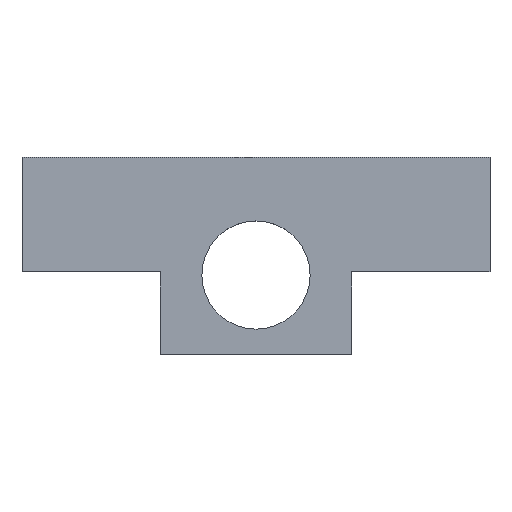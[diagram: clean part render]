
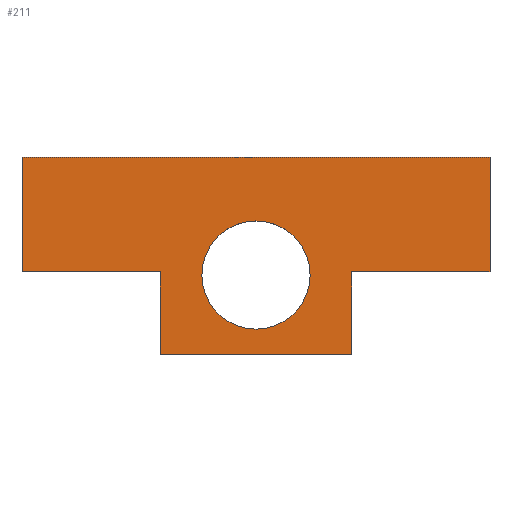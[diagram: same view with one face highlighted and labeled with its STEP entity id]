
A CAD part, top view. The second image highlights one B-rep face of the part: STEP entity #211.
In plain terms, the highlighted planar face has unit normal (0, 0, 1).
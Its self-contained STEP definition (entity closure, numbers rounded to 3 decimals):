
#24 = VERTEX_POINT('',#25);
#25 = CARTESIAN_POINT('',(-30.35,-45.2,15.3));
#32 = PLANE('',#33);
#33 = AXIS2_PLACEMENT_3D('',#34,#35,#36);
#34 = CARTESIAN_POINT('',(-30.35,-45.2,13.3));
#35 = DIRECTION('',(1.,0.,0.));
#36 = DIRECTION('',(0.,0.,1.));
#44 = PLANE('',#45);
#45 = AXIS2_PLACEMENT_3D('',#46,#47,#48);
#46 = CARTESIAN_POINT('',(-30.35,-45.2,13.3));
#47 = DIRECTION('',(0.,1.,0.));
#48 = DIRECTION('',(0.,0.,1.));
#85 = VERTEX_POINT('',#86);
#86 = CARTESIAN_POINT('',(-30.35,-41.6,15.3));
#100 = PLANE('',#101);
#101 = AXIS2_PLACEMENT_3D('',#102,#103,#104);
#102 = CARTESIAN_POINT('',(-30.35,-41.6,13.3));
#103 = DIRECTION('',(0.,1.,0.));
#104 = DIRECTION('',(0.,0.,1.));
#112 = EDGE_CURVE('',#24,#85,#113,.T.);
#113 = SURFACE_CURVE('',#114,(#118,#125),.PCURVE_S1.);
#114 = LINE('',#115,#116);
#115 = CARTESIAN_POINT('',(-30.35,-45.2,15.3));
#116 = VECTOR('',#117,1.);
#117 = DIRECTION('',(0.,1.,0.));
#118 = PCURVE('',#32,#119);
#119 = DEFINITIONAL_REPRESENTATION('',(#120),#124);
#120 = LINE('',#121,#122);
#121 = CARTESIAN_POINT('',(2.,0.));
#122 = VECTOR('',#123,1.);
#123 = DIRECTION('',(0.,-1.));
#124 = ( GEOMETRIC_REPRESENTATION_CONTEXT(2) 
PARAMETRIC_REPRESENTATION_CONTEXT() REPRESENTATION_CONTEXT('2D SPACE',''
  ) );
#125 = PCURVE('',#126,#131);
#126 = PLANE('',#127);
#127 = AXIS2_PLACEMENT_3D('',#128,#129,#130);
#128 = CARTESIAN_POINT('',(-30.35,-45.2,15.3));
#129 = DIRECTION('',(0.,0.,1.));
#130 = DIRECTION('',(1.,0.,0.));
#131 = DEFINITIONAL_REPRESENTATION('',(#132),#136);
#132 = LINE('',#133,#134);
#133 = CARTESIAN_POINT('',(0.,0.));
#134 = VECTOR('',#135,1.);
#135 = DIRECTION('',(0.,1.));
#136 = ( GEOMETRIC_REPRESENTATION_CONTEXT(2) 
PARAMETRIC_REPRESENTATION_CONTEXT() REPRESENTATION_CONTEXT('2D SPACE',''
  ) );
#165 = EDGE_CURVE('',#24,#166,#168,.T.);
#166 = VERTEX_POINT('',#167);
#167 = CARTESIAN_POINT('',(-26.,-45.2,15.3));
#168 = SURFACE_CURVE('',#169,(#173,#180),.PCURVE_S1.);
#169 = LINE('',#170,#171);
#170 = CARTESIAN_POINT('',(-30.35,-45.2,15.3));
#171 = VECTOR('',#172,1.);
#172 = DIRECTION('',(1.,0.,0.));
#173 = PCURVE('',#44,#174);
#174 = DEFINITIONAL_REPRESENTATION('',(#175),#179);
#175 = LINE('',#176,#177);
#176 = CARTESIAN_POINT('',(2.,0.));
#177 = VECTOR('',#178,1.);
#178 = DIRECTION('',(0.,1.));
#179 = ( GEOMETRIC_REPRESENTATION_CONTEXT(2) 
PARAMETRIC_REPRESENTATION_CONTEXT() REPRESENTATION_CONTEXT('2D SPACE',''
  ) );
#180 = PCURVE('',#126,#181);
#181 = DEFINITIONAL_REPRESENTATION('',(#182),#186);
#182 = LINE('',#183,#184);
#183 = CARTESIAN_POINT('',(0.,0.));
#184 = VECTOR('',#185,1.);
#185 = DIRECTION('',(1.,0.));
#186 = ( GEOMETRIC_REPRESENTATION_CONTEXT(2) 
PARAMETRIC_REPRESENTATION_CONTEXT() REPRESENTATION_CONTEXT('2D SPACE',''
  ) );
#201 = PLANE('',#202);
#202 = AXIS2_PLACEMENT_3D('',#203,#204,#205);
#203 = CARTESIAN_POINT('',(-26.,-47.8,13.3));
#204 = DIRECTION('',(1.,0.,0.));
#205 = DIRECTION('',(0.,0.,1.));
#211 = ADVANCED_FACE('',(#212,#372),#126,.T.);
#212 = FACE_BOUND('',#213,.T.);
#213 = EDGE_LOOP('',(#214,#237,#238,#239,#262,#290,#318,#346));
#214 = ORIENTED_EDGE('',*,*,#215,.F.);
#215 = EDGE_CURVE('',#85,#216,#218,.T.);
#216 = VERTEX_POINT('',#217);
#217 = CARTESIAN_POINT('',(-15.65,-41.6,15.3));
#218 = SURFACE_CURVE('',#219,(#223,#230),.PCURVE_S1.);
#219 = LINE('',#220,#221);
#220 = CARTESIAN_POINT('',(-30.35,-41.6,15.3));
#221 = VECTOR('',#222,1.);
#222 = DIRECTION('',(1.,0.,0.));
#223 = PCURVE('',#126,#224);
#224 = DEFINITIONAL_REPRESENTATION('',(#225),#229);
#225 = LINE('',#226,#227);
#226 = CARTESIAN_POINT('',(0.,3.6));
#227 = VECTOR('',#228,1.);
#228 = DIRECTION('',(1.,0.));
#229 = ( GEOMETRIC_REPRESENTATION_CONTEXT(2) 
PARAMETRIC_REPRESENTATION_CONTEXT() REPRESENTATION_CONTEXT('2D SPACE',''
  ) );
#230 = PCURVE('',#100,#231);
#231 = DEFINITIONAL_REPRESENTATION('',(#232),#236);
#232 = LINE('',#233,#234);
#233 = CARTESIAN_POINT('',(2.,0.));
#234 = VECTOR('',#235,1.);
#235 = DIRECTION('',(0.,1.));
#236 = ( GEOMETRIC_REPRESENTATION_CONTEXT(2) 
PARAMETRIC_REPRESENTATION_CONTEXT() REPRESENTATION_CONTEXT('2D SPACE',''
  ) );
#237 = ORIENTED_EDGE('',*,*,#112,.F.);
#238 = ORIENTED_EDGE('',*,*,#165,.T.);
#239 = ORIENTED_EDGE('',*,*,#240,.F.);
#240 = EDGE_CURVE('',#241,#166,#243,.T.);
#241 = VERTEX_POINT('',#242);
#242 = CARTESIAN_POINT('',(-26.,-47.8,15.3));
#243 = SURFACE_CURVE('',#244,(#248,#255),.PCURVE_S1.);
#244 = LINE('',#245,#246);
#245 = CARTESIAN_POINT('',(-26.,-47.8,15.3));
#246 = VECTOR('',#247,1.);
#247 = DIRECTION('',(0.,1.,0.));
#248 = PCURVE('',#126,#249);
#249 = DEFINITIONAL_REPRESENTATION('',(#250),#254);
#250 = LINE('',#251,#252);
#251 = CARTESIAN_POINT('',(4.35,-2.6));
#252 = VECTOR('',#253,1.);
#253 = DIRECTION('',(0.,1.));
#254 = ( GEOMETRIC_REPRESENTATION_CONTEXT(2) 
PARAMETRIC_REPRESENTATION_CONTEXT() REPRESENTATION_CONTEXT('2D SPACE',''
  ) );
#255 = PCURVE('',#201,#256);
#256 = DEFINITIONAL_REPRESENTATION('',(#257),#261);
#257 = LINE('',#258,#259);
#258 = CARTESIAN_POINT('',(2.,0.));
#259 = VECTOR('',#260,1.);
#260 = DIRECTION('',(0.,-1.));
#261 = ( GEOMETRIC_REPRESENTATION_CONTEXT(2) 
PARAMETRIC_REPRESENTATION_CONTEXT() REPRESENTATION_CONTEXT('2D SPACE',''
  ) );
#262 = ORIENTED_EDGE('',*,*,#263,.T.);
#263 = EDGE_CURVE('',#241,#264,#266,.T.);
#264 = VERTEX_POINT('',#265);
#265 = CARTESIAN_POINT('',(-20.,-47.8,15.3));
#266 = SURFACE_CURVE('',#267,(#271,#278),.PCURVE_S1.);
#267 = LINE('',#268,#269);
#268 = CARTESIAN_POINT('',(-26.,-47.8,15.3));
#269 = VECTOR('',#270,1.);
#270 = DIRECTION('',(1.,0.,0.));
#271 = PCURVE('',#126,#272);
#272 = DEFINITIONAL_REPRESENTATION('',(#273),#277);
#273 = LINE('',#274,#275);
#274 = CARTESIAN_POINT('',(4.35,-2.6));
#275 = VECTOR('',#276,1.);
#276 = DIRECTION('',(1.,0.));
#277 = ( GEOMETRIC_REPRESENTATION_CONTEXT(2) 
PARAMETRIC_REPRESENTATION_CONTEXT() REPRESENTATION_CONTEXT('2D SPACE',''
  ) );
#278 = PCURVE('',#279,#284);
#279 = PLANE('',#280);
#280 = AXIS2_PLACEMENT_3D('',#281,#282,#283);
#281 = CARTESIAN_POINT('',(-26.,-47.8,13.3));
#282 = DIRECTION('',(0.,1.,0.));
#283 = DIRECTION('',(0.,0.,1.));
#284 = DEFINITIONAL_REPRESENTATION('',(#285),#289);
#285 = LINE('',#286,#287);
#286 = CARTESIAN_POINT('',(2.,0.));
#287 = VECTOR('',#288,1.);
#288 = DIRECTION('',(0.,1.));
#289 = ( GEOMETRIC_REPRESENTATION_CONTEXT(2) 
PARAMETRIC_REPRESENTATION_CONTEXT() REPRESENTATION_CONTEXT('2D SPACE',''
  ) );
#290 = ORIENTED_EDGE('',*,*,#291,.T.);
#291 = EDGE_CURVE('',#264,#292,#294,.T.);
#292 = VERTEX_POINT('',#293);
#293 = CARTESIAN_POINT('',(-20.,-45.2,15.3));
#294 = SURFACE_CURVE('',#295,(#299,#306),.PCURVE_S1.);
#295 = LINE('',#296,#297);
#296 = CARTESIAN_POINT('',(-20.,-47.8,15.3));
#297 = VECTOR('',#298,1.);
#298 = DIRECTION('',(0.,1.,0.));
#299 = PCURVE('',#126,#300);
#300 = DEFINITIONAL_REPRESENTATION('',(#301),#305);
#301 = LINE('',#302,#303);
#302 = CARTESIAN_POINT('',(10.35,-2.6));
#303 = VECTOR('',#304,1.);
#304 = DIRECTION('',(0.,1.));
#305 = ( GEOMETRIC_REPRESENTATION_CONTEXT(2) 
PARAMETRIC_REPRESENTATION_CONTEXT() REPRESENTATION_CONTEXT('2D SPACE',''
  ) );
#306 = PCURVE('',#307,#312);
#307 = PLANE('',#308);
#308 = AXIS2_PLACEMENT_3D('',#309,#310,#311);
#309 = CARTESIAN_POINT('',(-20.,-47.8,13.3));
#310 = DIRECTION('',(1.,0.,0.));
#311 = DIRECTION('',(0.,0.,1.));
#312 = DEFINITIONAL_REPRESENTATION('',(#313),#317);
#313 = LINE('',#314,#315);
#314 = CARTESIAN_POINT('',(2.,0.));
#315 = VECTOR('',#316,1.);
#316 = DIRECTION('',(0.,-1.));
#317 = ( GEOMETRIC_REPRESENTATION_CONTEXT(2) 
PARAMETRIC_REPRESENTATION_CONTEXT() REPRESENTATION_CONTEXT('2D SPACE',''
  ) );
#318 = ORIENTED_EDGE('',*,*,#319,.T.);
#319 = EDGE_CURVE('',#292,#320,#322,.T.);
#320 = VERTEX_POINT('',#321);
#321 = CARTESIAN_POINT('',(-15.65,-45.2,15.3));
#322 = SURFACE_CURVE('',#323,(#327,#334),.PCURVE_S1.);
#323 = LINE('',#324,#325);
#324 = CARTESIAN_POINT('',(-30.35,-45.2,15.3));
#325 = VECTOR('',#326,1.);
#326 = DIRECTION('',(1.,0.,0.));
#327 = PCURVE('',#126,#328);
#328 = DEFINITIONAL_REPRESENTATION('',(#329),#333);
#329 = LINE('',#330,#331);
#330 = CARTESIAN_POINT('',(0.,0.));
#331 = VECTOR('',#332,1.);
#332 = DIRECTION('',(1.,0.));
#333 = ( GEOMETRIC_REPRESENTATION_CONTEXT(2) 
PARAMETRIC_REPRESENTATION_CONTEXT() REPRESENTATION_CONTEXT('2D SPACE',''
  ) );
#334 = PCURVE('',#335,#340);
#335 = PLANE('',#336);
#336 = AXIS2_PLACEMENT_3D('',#337,#338,#339);
#337 = CARTESIAN_POINT('',(-30.35,-45.2,13.3));
#338 = DIRECTION('',(0.,1.,0.));
#339 = DIRECTION('',(0.,0.,1.));
#340 = DEFINITIONAL_REPRESENTATION('',(#341),#345);
#341 = LINE('',#342,#343);
#342 = CARTESIAN_POINT('',(2.,0.));
#343 = VECTOR('',#344,1.);
#344 = DIRECTION('',(0.,1.));
#345 = ( GEOMETRIC_REPRESENTATION_CONTEXT(2) 
PARAMETRIC_REPRESENTATION_CONTEXT() REPRESENTATION_CONTEXT('2D SPACE',''
  ) );
#346 = ORIENTED_EDGE('',*,*,#347,.T.);
#347 = EDGE_CURVE('',#320,#216,#348,.T.);
#348 = SURFACE_CURVE('',#349,(#353,#360),.PCURVE_S1.);
#349 = LINE('',#350,#351);
#350 = CARTESIAN_POINT('',(-15.65,-45.2,15.3));
#351 = VECTOR('',#352,1.);
#352 = DIRECTION('',(0.,1.,0.));
#353 = PCURVE('',#126,#354);
#354 = DEFINITIONAL_REPRESENTATION('',(#355),#359);
#355 = LINE('',#356,#357);
#356 = CARTESIAN_POINT('',(14.7,0.));
#357 = VECTOR('',#358,1.);
#358 = DIRECTION('',(0.,1.));
#359 = ( GEOMETRIC_REPRESENTATION_CONTEXT(2) 
PARAMETRIC_REPRESENTATION_CONTEXT() REPRESENTATION_CONTEXT('2D SPACE',''
  ) );
#360 = PCURVE('',#361,#366);
#361 = PLANE('',#362);
#362 = AXIS2_PLACEMENT_3D('',#363,#364,#365);
#363 = CARTESIAN_POINT('',(-15.65,-45.2,13.3));
#364 = DIRECTION('',(1.,0.,0.));
#365 = DIRECTION('',(0.,0.,1.));
#366 = DEFINITIONAL_REPRESENTATION('',(#367),#371);
#367 = LINE('',#368,#369);
#368 = CARTESIAN_POINT('',(2.,0.));
#369 = VECTOR('',#370,1.);
#370 = DIRECTION('',(0.,-1.));
#371 = ( GEOMETRIC_REPRESENTATION_CONTEXT(2) 
PARAMETRIC_REPRESENTATION_CONTEXT() REPRESENTATION_CONTEXT('2D SPACE',''
  ) );
#372 = FACE_BOUND('',#373,.T.);
#373 = EDGE_LOOP('',(#374));
#374 = ORIENTED_EDGE('',*,*,#375,.T.);
#375 = EDGE_CURVE('',#376,#376,#378,.T.);
#376 = VERTEX_POINT('',#377);
#377 = CARTESIAN_POINT('',(-21.3,-45.3,15.3));
#378 = SURFACE_CURVE('',#379,(#384,#395),.PCURVE_S1.);
#379 = CIRCLE('',#380,1.7);
#380 = AXIS2_PLACEMENT_3D('',#381,#382,#383);
#381 = CARTESIAN_POINT('',(-23.,-45.3,15.3));
#382 = DIRECTION('',(0.,0.,-1.));
#383 = DIRECTION('',(1.,0.,0.));
#384 = PCURVE('',#126,#385);
#385 = DEFINITIONAL_REPRESENTATION('',(#386),#394);
#386 = ( BOUNDED_CURVE() B_SPLINE_CURVE(2,(#387,#388,#389,#390,#391,#392
,#393),.UNSPECIFIED.,.T.,.F.) B_SPLINE_CURVE_WITH_KNOTS((1,2,2,2,2,1),(
    -2.094,0.,2.094,4.189,6.283,
8.378),.UNSPECIFIED.) CURVE() GEOMETRIC_REPRESENTATION_ITEM() 
RATIONAL_B_SPLINE_CURVE((1.,0.5,1.,0.5,1.,0.5,1.)) REPRESENTATION_ITEM(
  '') );
#387 = CARTESIAN_POINT('',(9.05,-0.1));
#388 = CARTESIAN_POINT('',(9.05,-3.044));
#389 = CARTESIAN_POINT('',(6.5,-1.572));
#390 = CARTESIAN_POINT('',(3.95,-0.1));
#391 = CARTESIAN_POINT('',(6.5,1.372));
#392 = CARTESIAN_POINT('',(9.05,2.844));
#393 = CARTESIAN_POINT('',(9.05,-0.1));
#394 = ( GEOMETRIC_REPRESENTATION_CONTEXT(2) 
PARAMETRIC_REPRESENTATION_CONTEXT() REPRESENTATION_CONTEXT('2D SPACE',''
  ) );
#395 = PCURVE('',#396,#401);
#396 = CYLINDRICAL_SURFACE('',#397,1.7);
#397 = AXIS2_PLACEMENT_3D('',#398,#399,#400);
#398 = CARTESIAN_POINT('',(-23.,-45.3,13.));
#399 = DIRECTION('',(-0.,-0.,-1.));
#400 = DIRECTION('',(1.,0.,0.));
#401 = DEFINITIONAL_REPRESENTATION('',(#402),#406);
#402 = LINE('',#403,#404);
#403 = CARTESIAN_POINT('',(-6.283,-2.3));
#404 = VECTOR('',#405,1.);
#405 = DIRECTION('',(1.,-0.));
#406 = ( GEOMETRIC_REPRESENTATION_CONTEXT(2) 
PARAMETRIC_REPRESENTATION_CONTEXT() REPRESENTATION_CONTEXT('2D SPACE',''
  ) );
